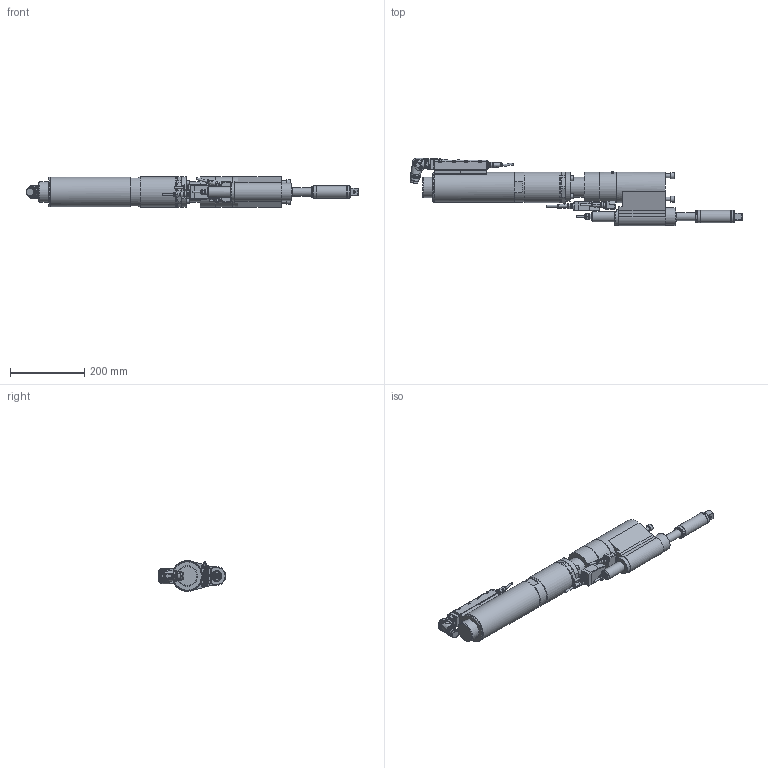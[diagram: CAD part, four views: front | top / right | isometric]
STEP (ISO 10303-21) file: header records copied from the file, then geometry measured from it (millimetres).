
FILE_DESCRIPTION (( 'STEP AP214' ), '1' );
FILE_NAME ('70082514_ESX329ZWRX300WX3AODX350-300.STEP', '2016-10-27T10:01:41', ( 'admin' ), ( '' ), 'SwSTEP 2.0', 'SolidWorks 2014', '' );
FILE_SCHEMA (( 'AUTOMOTIVE_DESIGN' ));
Length unit declared in the file: millimetre
Products named in the file (12): 70057493_4; 70057493_3; 70057493_2; 70082308; 70082334; 70082362; 70082385; 70082514_ESX329ZWRX300WX3AODX350-300; 7002133_3; 70082308_ESX329_Standard_Winkel_2; 70082293_2; 70057493_Standard_winkel
Assembly tree (12 placements, depth 4):
  70082514_ESX329ZWRX300WX3AODX350-300
    70082385
    70082362
    70082334
    70082308_ESX329_Standard_Winkel_2
      70082308
      70057493_Standard_winkel
        70057493_2
        70057493_3
        70057493_4
      70082293_2  x2
    7002133_3
Bounding box: 892.76 x 182.2 x 82 mm (x, y, z)
Volume: 4129391.8 mm3; surface area: 383144 mm2
Topology: 14 solids, 17 shells, 3473 faces, 9001 edges, 5801 vertices
Faces by surface type: plane 1663, cylinder 958, cone 495, bspline 271, torus 79, sphere 7
Full cylindrical faces by diameter (mm): 0.5 x14, 0.57 x14, 2 x3, 2.5 x1, 3 x4, 4.2 x1, 4.9 x6, 5 x14, 5.5 x13, 6 x2, 6.8 x8, 8 x28, 8.3 x1, 8.459 x2, 8.5 x1, 8.8 x1, 9 x7, 9.5 x1, 9.7 x1, 10 x3, 11.08 x4, 11.7 x1, 12 x2, 12.3 x3, 13 x5, 14 x7, 14.5 x2, 16 x3, 17.4 x1, 19.75 x2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
Entity records: 115516 total; most frequent: CARTESIAN_POINT 36602, ORIENTED_EDGE 16332, DIRECTION 14698, EDGE_CURVE 8166, AXIS2_PLACEMENT_3D 5544, VERTEX_POINT 5464, EDGE_LOOP 3978, VECTOR 3610
